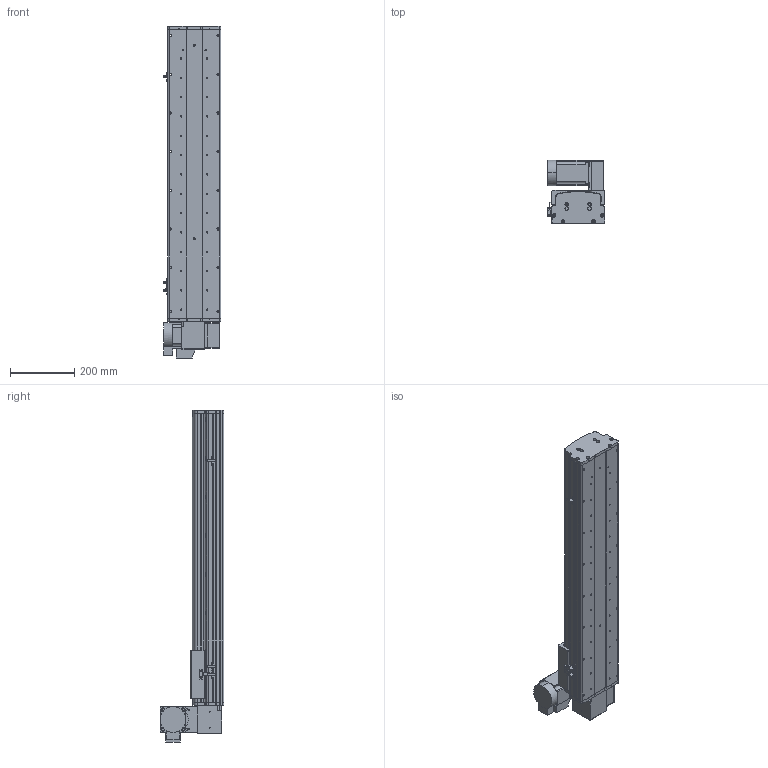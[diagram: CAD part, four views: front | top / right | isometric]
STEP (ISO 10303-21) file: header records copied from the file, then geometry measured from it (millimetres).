
FILE_DESCRIPTION (( 'STEP AP214' ), '1' );
FILE_NAME ('KSD165B-S650-MRU-CM .STEP', '2017-10-17T02:10:51', ( '微软用户' ), ( '微软中国' ), 'SwSTEP 2.0', 'SolidWorks 2014', '' );
FILE_SCHEMA (( 'AUTOMOTIVE_DESIGN' ));
Length unit declared in the file: millimetre
Products named in the file (17): KSD165耀郪-ヶ傷啣1-肮祭湍; KSD165模组-后端板1-同步带; KSD165模组-同步带滑动座-最新版; KSD165B-S650-MRU-CM  ; 130宽模组马达安装板连板上下折丝杆同步带; 130宽模组保护罩上下左右折-同步带; HTPA26S5M250-A-H8 750W萇儂蚚; HTPA26S5M250-A-H8 400W萇儂蚚 ; KSD165模组-同步带防尘盖1-650行程-最新版; KSD165模组同步带底板-650行程-最新; 拸秶雄ん750W侜督萇儂; 165宽马达安装板同步带右; U倰嫖萇假蚾璃; U倰嫖萇EEㄜSX672; 覜茼え68遵圉猾敕; KSD165模组-同步带-防撞垫2; KSD165模组同步带-防撞垫1
Assembly tree (20 placements, depth 2):
  KSD165B-S650-MRU-CM  
    KSD165模组-同步带滑动座-最新版
    KSD165模组-后端板1-同步带
    KSD165耀郪-ヶ傷啣1-肮祭湍
    KSD165模组同步带-防撞垫1
    KSD165模组-同步带-防撞垫2
    覜茼え68遵圉猾敕
    U倰嫖萇EEㄜSX672  x3
    U倰嫖萇假蚾璃  x3
    165宽马达安装板同步带右
    拸秶雄ん750W侜督萇儂
    KSD165模组同步带底板-650行程-最新
    KSD165模组-同步带防尘盖1-650行程-最新版
    HTPA26S5M250-A-H8 400W萇儂蚚 
    HTPA26S5M250-A-H8 750W萇儂蚚
    130宽模组保护罩上下左右折-同步带
    130宽模组马达安装板连板上下折丝杆同步带
Bounding box: 178.7 x 198 x 1030.5 mm (x, y, z)
Volume: 6337461.6 mm3; surface area: 1468673.1 mm2
Topology: 21 solids, 21 shells, 1921 faces, 5418 edges, 3536 vertices
Faces by surface type: cylinder 1227, plane 582, cone 112
Entity records: 62012 total; most frequent: CARTESIAN_POINT 12712, DIRECTION 10222, ORIENTED_EDGE 9496, EDGE_CURVE 4748, AXIS2_PLACEMENT_3D 4004, VERTEX_POINT 3128, CIRCLE 2280, LINE 2214
